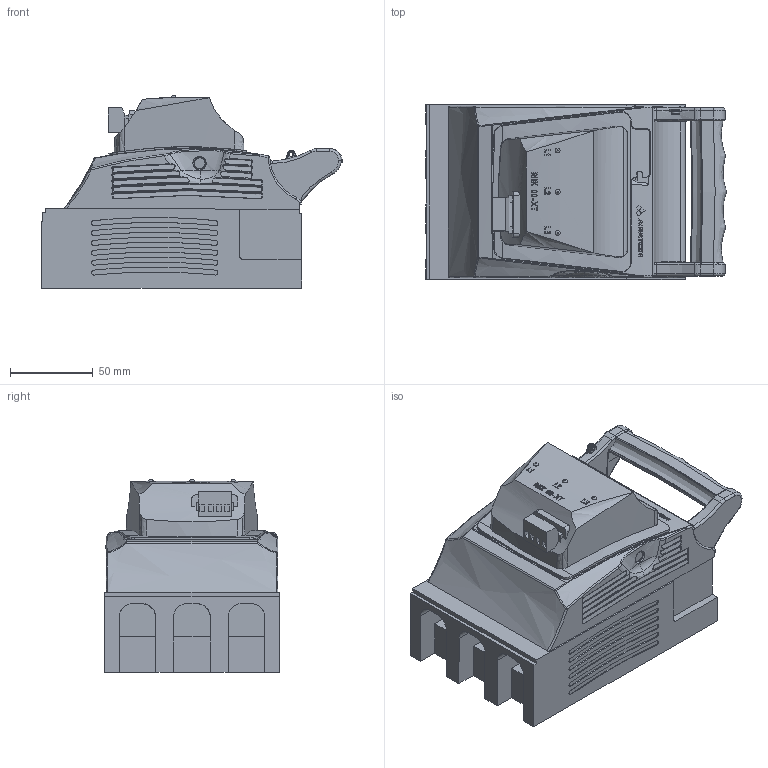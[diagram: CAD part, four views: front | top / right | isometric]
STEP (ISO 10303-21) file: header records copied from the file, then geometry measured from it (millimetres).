
FILE_DESCRIPTION(/* description */ (''),/* implementation_level */ '2;1');
FILE_NAME(/* name */ 'RBK 00 pro-XT - 63-823304-011.stp',/* time_stamp */ '2019-03-07T14:27:40+01:00',/* author */ (''),/* organization */ (''),/* preprocessor_version */ 'ST-DEVELOPER v16',/* originating_system */ 'SIEMENS PLM Software NX 10.0',/* authorisation */ '');
FILE_SCHEMA (('AUTOMOTIVE_DESIGN { 1 0 10303 214 3 1 1 1 }'));
Products named in the file (1): 710_1570FDB6zuxf
Bounding box: 182.22 x 106 x 116.65 mm (x, y, z)
Volume: 1274777.3 mm3; surface area: 105018.3 mm2
Topology: 1 solids, 4 shells, 1510 faces, 4210 edges, 2758 vertices
Faces by surface type: plane 897, bspline 234, cylinder 128, cone 96, extrusion 94, torus 37, sphere 18, revolution 6
Full cylindrical faces by diameter (mm): 2.2 x1, 5.2 x4, 6.6 x1
Entity records: 71954 total; most frequent: CARTESIAN_POINT 30267, ORIENTED_EDGE 8328, DIRECTION 7467, EDGE_CURVE 4164, AXIS2_PLACEMENT_3D 2911, VERTEX_POINT 2750, VECTOR 1639, EDGE_LOOP 1604
